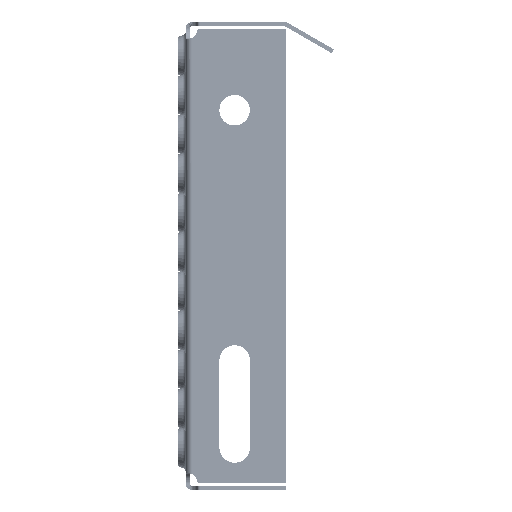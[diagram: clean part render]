
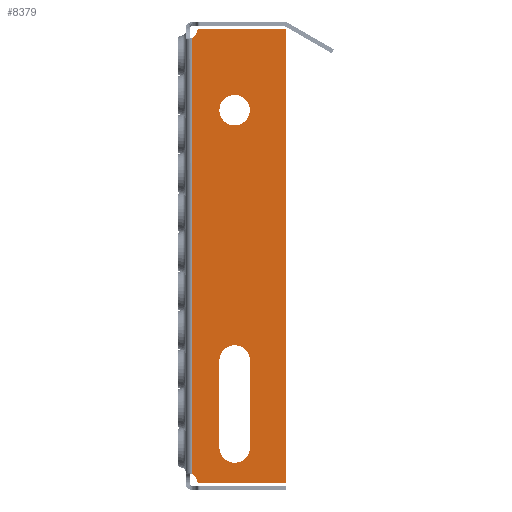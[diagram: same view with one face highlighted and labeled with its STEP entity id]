
A CAD part, left-side view. The second image highlights one B-rep face of the part: STEP entity #8379.
In plain terms, the highlighted planar face has unit normal (-1, 0, 0).
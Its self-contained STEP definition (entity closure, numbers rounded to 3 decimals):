
#1001 = VECTOR ( 'NONE', #63546, 1000. ) ;
#1683 = ORIENTED_EDGE ( 'NONE', *, *, #38224, .F. ) ;
#3063 = LINE ( 'NONE', #3259, #57023 ) ;
#3093 = DIRECTION ( 'NONE',  ( 0., 0., 1. ) ) ;
#3259 = CARTESIAN_POINT ( 'NONE',  ( -800., -6.416, -117. ) ) ;
#3499 = CIRCLE ( 'NONE', #62148, 7. ) ;
#3664 = CARTESIAN_POINT ( 'NONE',  ( -800., -15.5, -60.5 ) ) ;
#3969 = EDGE_CURVE ( 'NONE', #38687, #26690, #19705, .T. ) ;
#5050 = EDGE_CURVE ( 'NONE', #15855, #15981, #35195, .T. ) ;
#5281 = CARTESIAN_POINT ( 'NONE',  ( -800., -6.416, 91. ) ) ;
#5326 = DIRECTION ( 'NONE',  ( 1., 0., 0. ) ) ;
#5410 = CARTESIAN_POINT ( 'NONE',  ( -800., -6.416, 92. ) ) ;
#6052 = AXIS2_PLACEMENT_3D ( 'NONE', #20944, #57548, #26220 ) ;
#6131 = FACE_BOUND ( 'NONE', #64251, .T. ) ;
#7386 = DIRECTION ( 'NONE',  ( -1., 0., 0. ) ) ;
#8379 = ADVANCED_FACE ( 'NONE', ( #63317, #6131, #60063 ), #14861, .F. ) ;
#8381 = EDGE_LOOP ( 'NONE', ( #1683, #26718, #39363, #50000 ) ) ;
#8465 = VECTOR ( 'NONE', #38889, 1000. ) ;
#9553 = EDGE_CURVE ( 'NONE', #38804, #38804, #3499, .T. ) ;
#9651 = CARTESIAN_POINT ( 'NONE',  ( -800., -29.5, -60.5 ) ) ;
#10137 = CARTESIAN_POINT ( 'NONE',  ( -800., -5.43, 91.167 ) ) ;
#10256 = CARTESIAN_POINT ( 'NONE',  ( -800., -0.5, 92. ) ) ;
#10479 = CARTESIAN_POINT ( 'NONE',  ( -800., -46., -117. ) ) ;
#10531 = DIRECTION ( 'NONE',  ( 0., 0., 1. ) ) ;
#12642 = CARTESIAN_POINT ( 'NONE',  ( -800., -3., -122.916 ) ) ;
#12679 = EDGE_CURVE ( 'NONE', #26690, #54387, #54955, .T. ) ;
#14861 = PLANE ( 'NONE',  #19588 ) ;
#15086 = DIRECTION ( 'NONE',  ( 0., 0., -1. ) ) ;
#15355 = ORIENTED_EDGE ( 'NONE', *, *, #55027, .T. ) ;
#15490 = DIRECTION ( 'NONE',  ( 0., 0., -1. ) ) ;
#15855 = VERTEX_POINT ( 'NONE', #26196 ) ;
#15981 = VERTEX_POINT ( 'NONE', #21805 ) ;
#16496 = VERTEX_POINT ( 'NONE', #45405 ) ;
#19271 = VERTEX_POINT ( 'NONE', #10137 ) ;
#19514 = CARTESIAN_POINT ( 'NONE',  ( -800., -22.5, 54.5 ) ) ;
#19588 = AXIS2_PLACEMENT_3D ( 'NONE', #67175, #46399, #15086 ) ;
#19705 = LINE ( 'NONE', #34367, #45905 ) ;
#19895 = CIRCLE ( 'NONE', #50214, 5. ) ;
#20944 = CARTESIAN_POINT ( 'NONE',  ( -800., -22.5, -100.5 ) ) ;
#21805 = CARTESIAN_POINT ( 'NONE',  ( -800., -6.416, -117. ) ) ;
#22106 = CARTESIAN_POINT ( 'NONE',  ( -800., -22.5, 47.5 ) ) ;
#22122 = EDGE_CURVE ( 'NONE', #19271, #43684, #19895, .T. ) ;
#24756 = DIRECTION ( 'NONE',  ( 0., 0., -1. ) ) ;
#24917 = ORIENTED_EDGE ( 'NONE', *, *, #12679, .T. ) ;
#26196 = CARTESIAN_POINT ( 'NONE',  ( -800., -5.43, -116.167 ) ) ;
#26220 = DIRECTION ( 'NONE',  ( 0., 0., -1. ) ) ;
#26460 = VECTOR ( 'NONE', #63990, 1000. ) ;
#26690 = VERTEX_POINT ( 'NONE', #52684 ) ;
#26718 = ORIENTED_EDGE ( 'NONE', *, *, #48388, .F. ) ;
#27454 = CARTESIAN_POINT ( 'NONE',  ( -800., -29.5, -60.5 ) ) ;
#27615 = EDGE_CURVE ( 'NONE', #16496, #43684, #62403, .T. ) ;
#28100 = LINE ( 'NONE', #32687, #26460 ) ;
#28183 = CARTESIAN_POINT ( 'NONE',  ( -800., -6.416, -116. ) ) ;
#28530 = EDGE_CURVE ( 'NONE', #59481, #32806, #57370, .T. ) ;
#32687 = CARTESIAN_POINT ( 'NONE',  ( -800., -15.5, -60.5 ) ) ;
#32806 = VERTEX_POINT ( 'NONE', #42902 ) ;
#33274 = LINE ( 'NONE', #9651, #47188 ) ;
#33462 = DIRECTION ( 'NONE',  ( 0., 0., -1. ) ) ;
#34136 = ORIENTED_EDGE ( 'NONE', *, *, #9553, .F. ) ;
#34324 = CIRCLE ( 'NONE', #37020, 5. ) ;
#34367 = CARTESIAN_POINT ( 'NONE',  ( -800., -46., -117. ) ) ;
#34468 = ORIENTED_EDGE ( 'NONE', *, *, #22122, .T. ) ;
#35195 = CIRCLE ( 'NONE', #52214, 1. ) ;
#36605 = CARTESIAN_POINT ( 'NONE',  ( -800., -0.5, -117. ) ) ;
#36715 = ORIENTED_EDGE ( 'NONE', *, *, #27615, .F. ) ;
#37020 = AXIS2_PLACEMENT_3D ( 'NONE', #36605, #5326, #41882 ) ;
#37150 = CIRCLE ( 'NONE', #58033, 7. ) ;
#38224 = EDGE_CURVE ( 'NONE', #38542, #59481, #28100, .T. ) ;
#38542 = VERTEX_POINT ( 'NONE', #3664 ) ;
#38661 = CARTESIAN_POINT ( 'NONE',  ( -800., -22.5, -60.5 ) ) ;
#38687 = VERTEX_POINT ( 'NONE', #10479 ) ;
#38804 = VERTEX_POINT ( 'NONE', #22106 ) ;
#38889 = DIRECTION ( 'NONE',  ( 0., 0., 1. ) ) ;
#39363 = ORIENTED_EDGE ( 'NONE', *, *, #46863, .F. ) ;
#39817 = DIRECTION ( 'NONE',  ( 0., -1., 0. ) ) ;
#41835 = DIRECTION ( 'NONE',  ( -1., 0., 0. ) ) ;
#41882 = DIRECTION ( 'NONE',  ( 0., 0., -1. ) ) ;
#42556 = CARTESIAN_POINT ( 'NONE',  ( -800., -46., 92. ) ) ;
#42902 = CARTESIAN_POINT ( 'NONE',  ( -800., -29.5, -100.5 ) ) ;
#43684 = VERTEX_POINT ( 'NONE', #45800 ) ;
#43931 = DIRECTION ( 'NONE',  ( 0., 0., -1. ) ) ;
#44039 = VERTEX_POINT ( 'NONE', #27454 ) ;
#44507 = EDGE_LOOP ( 'NONE', ( #36715, #15355, #58101, #46072, #52325, #24917, #45337, #34468 ) ) ;
#44870 = CARTESIAN_POINT ( 'NONE',  ( -800., -15.5, -100.5 ) ) ;
#45337 = ORIENTED_EDGE ( 'NONE', *, *, #48850, .T. ) ;
#45405 = CARTESIAN_POINT ( 'NONE',  ( -800., -3., -112.67 ) ) ;
#45800 = CARTESIAN_POINT ( 'NONE',  ( -800., -3., 87.67 ) ) ;
#45905 = VECTOR ( 'NONE', #3093, 1000. ) ;
#46072 = ORIENTED_EDGE ( 'NONE', *, *, #46658, .T. ) ;
#46399 = DIRECTION ( 'NONE',  ( 1., 0., 0. ) ) ;
#46658 = EDGE_CURVE ( 'NONE', #15981, #38687, #3063, .T. ) ;
#46807 = DIRECTION ( 'NONE',  ( 1., 0., 0. ) ) ;
#46863 = EDGE_CURVE ( 'NONE', #32806, #44039, #33274, .T. ) ;
#47188 = VECTOR ( 'NONE', #51402, 1000. ) ;
#48388 = EDGE_CURVE ( 'NONE', #44039, #38542, #37150, .T. ) ;
#48850 = EDGE_CURVE ( 'NONE', #54387, #19271, #52597, .T. ) ;
#50000 = ORIENTED_EDGE ( 'NONE', *, *, #28530, .F. ) ;
#50214 = AXIS2_PLACEMENT_3D ( 'NONE', #10256, #46807, #15490 ) ;
#51402 = DIRECTION ( 'NONE',  ( 0., 0., 1. ) ) ;
#52214 = AXIS2_PLACEMENT_3D ( 'NONE', #28183, #64753, #33462 ) ;
#52325 = ORIENTED_EDGE ( 'NONE', *, *, #3969, .T. ) ;
#52597 = CIRCLE ( 'NONE', #62427, 1. ) ;
#52684 = CARTESIAN_POINT ( 'NONE',  ( -800., -46., 92. ) ) ;
#54387 = VERTEX_POINT ( 'NONE', #5410 ) ;
#54955 = LINE ( 'NONE', #42556, #1001 ) ;
#55027 = EDGE_CURVE ( 'NONE', #16496, #15855, #34324, .T. ) ;
#56080 = DIRECTION ( 'NONE',  ( -1., 0., 0. ) ) ;
#57023 = VECTOR ( 'NONE', #39817, 1000. ) ;
#57370 = CIRCLE ( 'NONE', #6052, 7. ) ;
#57548 = DIRECTION ( 'NONE',  ( -1., 0., 0. ) ) ;
#58033 = AXIS2_PLACEMENT_3D ( 'NONE', #38661, #7386, #43931 ) ;
#58101 = ORIENTED_EDGE ( 'NONE', *, *, #5050, .T. ) ;
#59481 = VERTEX_POINT ( 'NONE', #44870 ) ;
#60063 = FACE_BOUND ( 'NONE', #8381, .T. ) ;
#62148 = AXIS2_PLACEMENT_3D ( 'NONE', #19514, #56080, #24756 ) ;
#62403 = LINE ( 'NONE', #12642, #8465 ) ;
#62427 = AXIS2_PLACEMENT_3D ( 'NONE', #5281, #41835, #10531 ) ;
#63317 = FACE_OUTER_BOUND ( 'NONE', #44507, .T. ) ;
#63546 = DIRECTION ( 'NONE',  ( 0., 1., 0. ) ) ;
#63990 = DIRECTION ( 'NONE',  ( 0., 0., -1. ) ) ;
#64251 = EDGE_LOOP ( 'NONE', ( #34136 ) ) ;
#64753 = DIRECTION ( 'NONE',  ( -1., 0., 0. ) ) ;
#67175 = CARTESIAN_POINT ( 'NONE',  ( -800., 0.5, -122.916 ) ) ;
